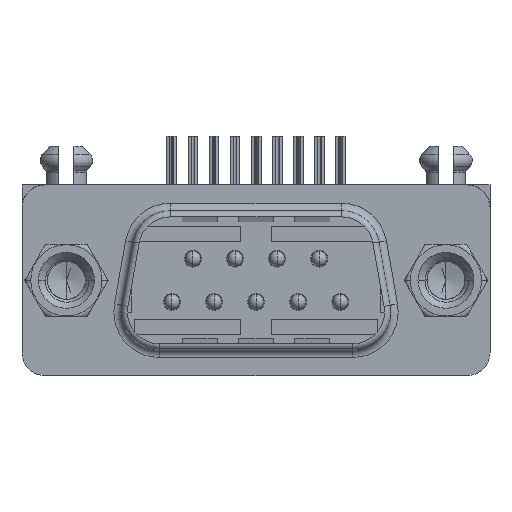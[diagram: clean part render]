
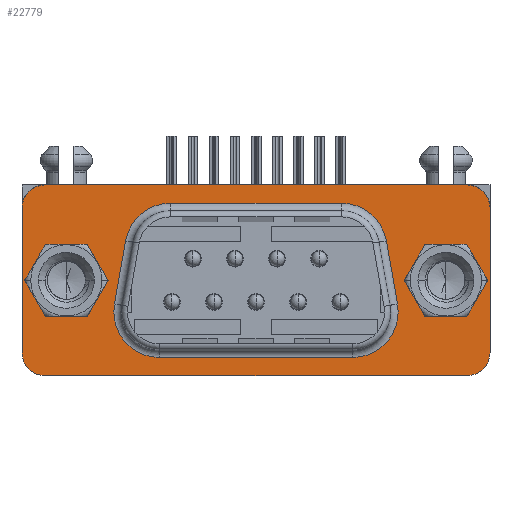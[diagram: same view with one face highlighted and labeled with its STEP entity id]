
A CAD part, front view. The second image highlights one B-rep face of the part: STEP entity #22779.
In plain terms, the highlighted planar face has unit normal (0, -1, 0).
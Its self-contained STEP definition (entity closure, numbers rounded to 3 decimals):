
#841=DIRECTION('',(1.,0.,0.));
#842=VECTOR('',#841,27.81);
#843=CARTESIAN_POINT('',(-13.91,-0.4,0.));
#844=LINE('',#843,#842);
#5901=CARTESIAN_POINT('',(-13.91,-0.4,-1.5));
#5902=DIRECTION('',(0.,-1.,0.));
#5903=DIRECTION('',(0.,0.,1.));
#5904=AXIS2_PLACEMENT_3D('',#5901,#5902,#5903);
#5906=CARTESIAN_POINT('',(13.9,-0.4,-1.5));
#5907=DIRECTION('',(0.,-1.,0.));
#5908=DIRECTION('',(1.,0.,0.));
#5909=AXIS2_PLACEMENT_3D('',#5906,#5907,#5908);
#5911=CARTESIAN_POINT('',(13.9,-0.4,-11.05));
#5912=DIRECTION('',(0.,-1.,0.));
#5913=DIRECTION('',(0.,0.,-1.));
#5914=AXIS2_PLACEMENT_3D('',#5911,#5912,#5913);
#5916=CARTESIAN_POINT('',(-13.91,-0.4,-11.05));
#5917=DIRECTION('',(0.,-1.,0.));
#5918=DIRECTION('',(-1.,0.,0.));
#5919=AXIS2_PLACEMENT_3D('',#5916,#5917,#5918);
#5921=DIRECTION('',(0.174,0.,0.985));
#5922=VECTOR('',#5921,4.224);
#5923=CARTESIAN_POINT('',(-9.319,-0.4,-7.834));
#5924=LINE('',#5923,#5922);
#5925=CARTESIAN_POINT('',(-6.365,-0.4,-8.355));
#5926=DIRECTION('',(0.,1.,0.));
#5927=DIRECTION('',(0.,0.,-1.));
#5928=AXIS2_PLACEMENT_3D('',#5925,#5926,#5927);
#5930=CARTESIAN_POINT('',(6.355,-0.4,-8.355));
#5931=DIRECTION('',(0.,1.,0.));
#5932=DIRECTION('',(0.985,0.,0.174));
#5933=AXIS2_PLACEMENT_3D('',#5930,#5931,#5932);
#5935=DIRECTION('',(0.174,0.,-0.985));
#5936=VECTOR('',#5935,4.224);
#5937=CARTESIAN_POINT('',(8.576,-0.4,-3.674));
#5938=LINE('',#5937,#5936);
#5939=CARTESIAN_POINT('',(5.621,-0.4,-4.195));
#5940=DIRECTION('',(0.,1.,0.));
#5941=DIRECTION('',(0.,0.,1.));
#5942=AXIS2_PLACEMENT_3D('',#5939,#5940,#5941);
#5944=CARTESIAN_POINT('',(-5.631,-0.4,-4.195));
#5945=DIRECTION('',(0.,1.,0.));
#5946=DIRECTION('',(-0.985,0.,0.174));
#5947=AXIS2_PLACEMENT_3D('',#5944,#5945,#5946);
#5949=DIRECTION('',(0.5,0.,-0.866));
#5950=VECTOR('',#5949,2.742);
#5951=CARTESIAN_POINT('',(13.871,-0.4,-3.9));
#5952=LINE('',#5951,#5950);
#5953=DIRECTION('',(1.,0.,0.));
#5954=VECTOR('',#5953,2.742);
#5955=CARTESIAN_POINT('',(11.129,-0.4,-3.9));
#5956=LINE('',#5955,#5954);
#5957=DIRECTION('',(0.5,0.,0.866));
#5958=VECTOR('',#5957,2.742);
#5959=CARTESIAN_POINT('',(9.758,-0.4,-6.275));
#5960=LINE('',#5959,#5958);
#5961=DIRECTION('',(-0.5,0.,0.866));
#5962=VECTOR('',#5961,2.742);
#5963=CARTESIAN_POINT('',(11.129,-0.4,-8.65));
#5964=LINE('',#5963,#5962);
#5965=DIRECTION('',(-1.,0.,0.));
#5966=VECTOR('',#5965,2.742);
#5967=CARTESIAN_POINT('',(13.871,-0.4,-8.65));
#5968=LINE('',#5967,#5966);
#5969=DIRECTION('',(-0.5,0.,-0.866));
#5970=VECTOR('',#5969,2.742);
#5971=CARTESIAN_POINT('',(15.242,-0.4,-6.275));
#5972=LINE('',#5971,#5970);
#5973=DIRECTION('',(0.5,0.,-0.866));
#5974=VECTOR('',#5973,2.742);
#5975=CARTESIAN_POINT('',(-11.119,-0.4,-3.9));
#5976=LINE('',#5975,#5974);
#5977=DIRECTION('',(1.,0.,0.));
#5978=VECTOR('',#5977,2.742);
#5979=CARTESIAN_POINT('',(-13.861,-0.4,-3.9));
#5980=LINE('',#5979,#5978);
#5981=DIRECTION('',(0.5,0.,0.866));
#5982=VECTOR('',#5981,2.742);
#5983=CARTESIAN_POINT('',(-15.232,-0.4,-6.275));
#5984=LINE('',#5983,#5982);
#5985=DIRECTION('',(-0.5,0.,0.866));
#5986=VECTOR('',#5985,2.742);
#5987=CARTESIAN_POINT('',(-13.861,-0.4,-8.65));
#5988=LINE('',#5987,#5986);
#5989=DIRECTION('',(-1.,0.,0.));
#5990=VECTOR('',#5989,2.742);
#5991=CARTESIAN_POINT('',(-11.119,-0.4,-8.65));
#5992=LINE('',#5991,#5990);
#5993=DIRECTION('',(-0.5,0.,-0.866));
#5994=VECTOR('',#5993,2.742);
#5995=CARTESIAN_POINT('',(-9.748,-0.4,-6.275));
#5996=LINE('',#5995,#5994);
#6009=DIRECTION('',(0.,0.,-1.));
#6010=VECTOR('',#6009,9.55);
#6011=CARTESIAN_POINT('',(15.4,-0.4,-1.5));
#6012=LINE('',#6011,#6010);
#6049=DIRECTION('',(-1.,0.,0.));
#6050=VECTOR('',#6049,27.81);
#6051=CARTESIAN_POINT('',(13.9,-0.4,-12.55));
#6052=LINE('',#6051,#6050);
#6546=DIRECTION('',(0.,0.,1.));
#6547=VECTOR('',#6546,9.55);
#6548=CARTESIAN_POINT('',(-15.41,-0.4,-11.05));
#6549=LINE('',#6548,#6547);
#6573=DIRECTION('',(-1.,0.,0.));
#6574=VECTOR('',#6573,11.253);
#6575=CARTESIAN_POINT('',(5.621,-0.4,-1.195));
#6576=LINE('',#6575,#6574);
#6615=DIRECTION('',(1.,0.,0.));
#6616=VECTOR('',#6615,12.72);
#6617=CARTESIAN_POINT('',(-6.365,-0.4,-11.355));
#6618=LINE('',#6617,#6616);
#12936=CARTESIAN_POINT('',(-13.91,-0.4,0.));
#12937=CARTESIAN_POINT('',(-15.41,-0.4,-1.5));
#12938=VERTEX_POINT('',#12936);
#12939=VERTEX_POINT('',#12937);
#12940=CARTESIAN_POINT('',(13.9,-0.4,0.));
#12941=VERTEX_POINT('',#12940);
#12942=CARTESIAN_POINT('',(15.4,-0.4,-1.5));
#12943=VERTEX_POINT('',#12942);
#12944=CARTESIAN_POINT('',(15.4,-0.4,-11.05));
#12945=VERTEX_POINT('',#12944);
#12946=CARTESIAN_POINT('',(13.9,-0.4,-12.55));
#12947=VERTEX_POINT('',#12946);
#12948=CARTESIAN_POINT('',(-13.91,-0.4,-12.55));
#12949=VERTEX_POINT('',#12948);
#12950=CARTESIAN_POINT('',(-15.41,-0.4,-11.05));
#12951=VERTEX_POINT('',#12950);
#12952=CARTESIAN_POINT('',(-9.319,-0.4,-7.834));
#12953=CARTESIAN_POINT('',(-8.586,-0.4,-3.674));
#12954=VERTEX_POINT('',#12952);
#12955=VERTEX_POINT('',#12953);
#12956=CARTESIAN_POINT('',(-6.365,-0.4,-11.355));
#12957=VERTEX_POINT('',#12956);
#12958=CARTESIAN_POINT('',(6.355,-0.4,-11.355));
#12959=VERTEX_POINT('',#12958);
#12960=CARTESIAN_POINT('',(9.309,-0.4,-7.834));
#12961=VERTEX_POINT('',#12960);
#12962=CARTESIAN_POINT('',(8.576,-0.4,-3.674));
#12963=VERTEX_POINT('',#12962);
#12964=CARTESIAN_POINT('',(5.621,-0.4,-1.195));
#12965=VERTEX_POINT('',#12964);
#12966=CARTESIAN_POINT('',(-5.631,-0.4,-1.195));
#12967=VERTEX_POINT('',#12966);
#14120=CARTESIAN_POINT('',(13.871,-0.4,-3.9));
#14121=CARTESIAN_POINT('',(15.242,-0.4,-6.275));
#14122=VERTEX_POINT('',#14120);
#14123=VERTEX_POINT('',#14121);
#14124=CARTESIAN_POINT('',(13.871,-0.4,-8.65));
#14125=VERTEX_POINT('',#14124);
#14126=CARTESIAN_POINT('',(11.129,-0.4,-8.65));
#14127=VERTEX_POINT('',#14126);
#14128=CARTESIAN_POINT('',(9.758,-0.4,-6.275));
#14129=VERTEX_POINT('',#14128);
#14130=CARTESIAN_POINT('',(11.129,-0.4,-3.9));
#14131=VERTEX_POINT('',#14130);
#14144=CARTESIAN_POINT('',(-11.119,-0.4,-3.9));
#14145=CARTESIAN_POINT('',(-9.748,-0.4,-6.275));
#14146=VERTEX_POINT('',#14144);
#14147=VERTEX_POINT('',#14145);
#14148=CARTESIAN_POINT('',(-11.119,-0.4,-8.65));
#14149=VERTEX_POINT('',#14148);
#14150=CARTESIAN_POINT('',(-13.861,-0.4,-8.65));
#14151=VERTEX_POINT('',#14150);
#14152=CARTESIAN_POINT('',(-15.232,-0.4,-6.275));
#14153=VERTEX_POINT('',#14152);
#14154=CARTESIAN_POINT('',(-13.861,-0.4,-3.9));
#14155=VERTEX_POINT('',#14154);
#22712=CARTESIAN_POINT('',(-0.005,-0.4,-6.275));
#22713=DIRECTION('',(0.,1.,0.));
#22714=DIRECTION('',(-1.,0.,0.));
#22715=AXIS2_PLACEMENT_3D('',#22712,#22713,#22714);
#22716=PLANE('',#22715);
#22717=ORIENTED_EDGE('',*,*,#22704,.F.);
#22718=ORIENTED_EDGE('',*,*,#15092,.T.);
#22720=ORIENTED_EDGE('',*,*,#22719,.F.);
#22722=ORIENTED_EDGE('',*,*,#22721,.T.);
#22724=ORIENTED_EDGE('',*,*,#22723,.F.);
#22726=ORIENTED_EDGE('',*,*,#22725,.T.);
#22728=ORIENTED_EDGE('',*,*,#22727,.F.);
#22730=ORIENTED_EDGE('',*,*,#22729,.T.);
#22731=EDGE_LOOP('',(#22717,#22718,#22720,#22722,#22724,#22726,#22728,#22730));
#22732=FACE_OUTER_BOUND('',#22731,.F.);
#22734=ORIENTED_EDGE('',*,*,#22733,.F.);
#22736=ORIENTED_EDGE('',*,*,#22735,.F.);
#22738=ORIENTED_EDGE('',*,*,#22737,.T.);
#22740=ORIENTED_EDGE('',*,*,#22739,.F.);
#22742=ORIENTED_EDGE('',*,*,#22741,.F.);
#22744=ORIENTED_EDGE('',*,*,#22743,.F.);
#22746=ORIENTED_EDGE('',*,*,#22745,.T.);
#22748=ORIENTED_EDGE('',*,*,#22747,.F.);
#22749=EDGE_LOOP('',(#22734,#22736,#22738,#22740,#22742,#22744,#22746,#22748));
#22750=FACE_BOUND('',#22749,.F.);
#22752=ORIENTED_EDGE('',*,*,#22751,.F.);
#22754=ORIENTED_EDGE('',*,*,#22753,.F.);
#22756=ORIENTED_EDGE('',*,*,#22755,.F.);
#22758=ORIENTED_EDGE('',*,*,#22757,.F.);
#22760=ORIENTED_EDGE('',*,*,#22759,.F.);
#22762=ORIENTED_EDGE('',*,*,#22761,.F.);
#22763=EDGE_LOOP('',(#22752,#22754,#22756,#22758,#22760,#22762));
#22764=FACE_BOUND('',#22763,.F.);
#22766=ORIENTED_EDGE('',*,*,#22765,.F.);
#22768=ORIENTED_EDGE('',*,*,#22767,.F.);
#22770=ORIENTED_EDGE('',*,*,#22769,.F.);
#22772=ORIENTED_EDGE('',*,*,#22771,.F.);
#22774=ORIENTED_EDGE('',*,*,#22773,.F.);
#22776=ORIENTED_EDGE('',*,*,#22775,.F.);
#22777=EDGE_LOOP('',(#22766,#22768,#22770,#22772,#22774,#22776));
#22778=FACE_BOUND('',#22777,.F.);
#5905=CIRCLE('',#5904,1.5);
#5910=CIRCLE('',#5909,1.5);
#5915=CIRCLE('',#5914,1.5);
#5920=CIRCLE('',#5919,1.5);
#5929=CIRCLE('',#5928,3.);
#5934=CIRCLE('',#5933,3.);
#5943=CIRCLE('',#5942,3.);
#5948=CIRCLE('',#5947,3.);
#15092=EDGE_CURVE('',#12938,#12941,#844,.T.);
#22704=EDGE_CURVE('',#12938,#12939,#5905,.T.);
#22719=EDGE_CURVE('',#12943,#12941,#5910,.T.);
#22721=EDGE_CURVE('',#12943,#12945,#6012,.T.);
#22723=EDGE_CURVE('',#12947,#12945,#5915,.T.);
#22725=EDGE_CURVE('',#12947,#12949,#6052,.T.);
#22727=EDGE_CURVE('',#12951,#12949,#5920,.T.);
#22729=EDGE_CURVE('',#12951,#12939,#6549,.T.);
#22733=EDGE_CURVE('',#12954,#12955,#5924,.T.);
#22735=EDGE_CURVE('',#12957,#12954,#5929,.T.);
#22737=EDGE_CURVE('',#12957,#12959,#6618,.T.);
#22739=EDGE_CURVE('',#12961,#12959,#5934,.T.);
#22741=EDGE_CURVE('',#12963,#12961,#5938,.T.);
#22743=EDGE_CURVE('',#12965,#12963,#5943,.T.);
#22745=EDGE_CURVE('',#12965,#12967,#6576,.T.);
#22747=EDGE_CURVE('',#12955,#12967,#5948,.T.);
#22751=EDGE_CURVE('',#14122,#14123,#5952,.T.);
#22753=EDGE_CURVE('',#14131,#14122,#5956,.T.);
#22755=EDGE_CURVE('',#14129,#14131,#5960,.T.);
#22757=EDGE_CURVE('',#14127,#14129,#5964,.T.);
#22759=EDGE_CURVE('',#14125,#14127,#5968,.T.);
#22761=EDGE_CURVE('',#14123,#14125,#5972,.T.);
#22765=EDGE_CURVE('',#14146,#14147,#5976,.T.);
#22767=EDGE_CURVE('',#14155,#14146,#5980,.T.);
#22769=EDGE_CURVE('',#14153,#14155,#5984,.T.);
#22771=EDGE_CURVE('',#14151,#14153,#5988,.T.);
#22773=EDGE_CURVE('',#14149,#14151,#5992,.T.);
#22775=EDGE_CURVE('',#14147,#14149,#5996,.T.);
#22779=ADVANCED_FACE('',(#22732,#22750,#22764,#22778),#22716,.F.);
